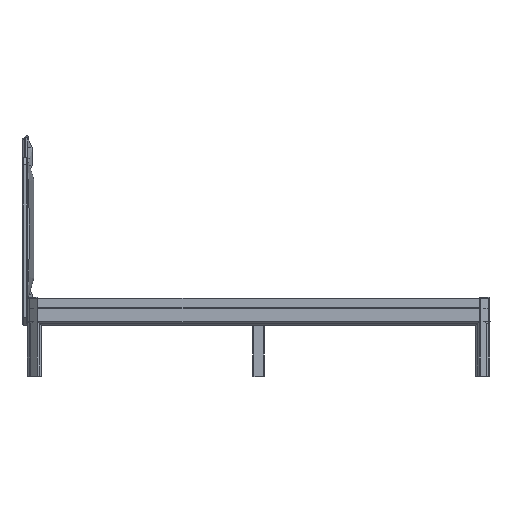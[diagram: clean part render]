
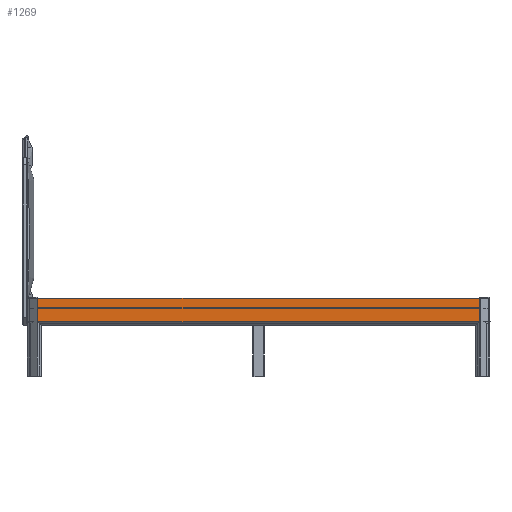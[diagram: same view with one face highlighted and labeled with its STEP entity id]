
A CAD part, left-side view. The second image highlights one B-rep face of the part: STEP entity #1269.
In plain terms, the highlighted planar face has unit normal (-1, 0, 0).
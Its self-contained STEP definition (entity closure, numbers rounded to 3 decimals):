
#1269=ADVANCED_FACE('',(#2975),#25318,.T.);
#2975=FACE_OUTER_BOUND('',#4689,.T.);
#4689=EDGE_LOOP('',(#8047,#8048,#8049,#8050,#8051,#8052));
#8047=ORIENTED_EDGE('',*,*,#15329,.T.);
#8048=ORIENTED_EDGE('',*,*,#15321,.F.);
#8049=ORIENTED_EDGE('',*,*,#15303,.F.);
#8050=ORIENTED_EDGE('',*,*,#15310,.F.);
#8051=ORIENTED_EDGE('',*,*,#15322,.F.);
#8052=ORIENTED_EDGE('',*,*,#15338,.T.);
#15303=EDGE_CURVE('',#23219,#23220,#21203,.T.);
#15310=EDGE_CURVE('',#23228,#23219,#21210,.T.);
#15321=EDGE_CURVE('',#23220,#23233,#19026,.T.);
#15322=EDGE_CURVE('',#23236,#23228,#21214,.T.);
#15329=EDGE_CURVE('',#23241,#23233,#21219,.T.);
#15338=EDGE_CURVE('',#23236,#23241,#21226,.T.);
#19026=(
BOUNDED_CURVE()
B_SPLINE_CURVE(1,(#46661,#46662),.UNSPECIFIED.,.F.,.F.)
B_SPLINE_CURVE_WITH_KNOTS((2,2),(0.,1918.4),.UNSPECIFIED.)
CURVE()
GEOMETRIC_REPRESENTATION_ITEM()
RATIONAL_B_SPLINE_CURVE((1.,1.))
REPRESENTATION_ITEM('')
);
#21203=B_SPLINE_CURVE_WITH_KNOTS('',1,(#46589,#46590),.UNSPECIFIED.,.F.,
 .F.,(2,2),(0.,100.963),.UNSPECIFIED.);
#21210=B_SPLINE_CURVE_WITH_KNOTS('',1,(#46631,#46632),.UNSPECIFIED.,.F.,
 .F.,(2,2),(0.,0.017),.UNSPECIFIED.);
#21214=B_SPLINE_CURVE_WITH_KNOTS('',1,(#46663,#46664),.UNSPECIFIED.,.F.,
 .F.,(2,2),(0.,1918.376),.UNSPECIFIED.);
#21219=B_SPLINE_CURVE_WITH_KNOTS('',1,(#46677,#46678),.UNSPECIFIED.,.F.,
 .F.,(2,2),(0.,100.963),.UNSPECIFIED.);
#21226=B_SPLINE_CURVE_WITH_KNOTS('',1,(#46711,#46712),.UNSPECIFIED.,.F.,
 .F.,(2,2),(-0.017,0.),.UNSPECIFIED.);
#23219=VERTEX_POINT('',#46562);
#23220=VERTEX_POINT('',#46563);
#23228=VERTEX_POINT('',#46571);
#23233=VERTEX_POINT('',#46576);
#23236=VERTEX_POINT('',#46579);
#23241=VERTEX_POINT('',#46584);
#25318=PLANE('',#26583);
#26583=AXIS2_PLACEMENT_3D('',#46554,#27967,$);
#27967=DIRECTION('',(-1.,0.,0.));
#46554=CARTESIAN_POINT('',(-4105.5,1154.552,227.32));
#46562=CARTESIAN_POINT('',(-4105.5,962.7,237.441));
#46563=CARTESIAN_POINT('',(-4105.5,962.7,338.404));
#46571=CARTESIAN_POINT('',(-4105.5,962.688,237.429));
#46576=CARTESIAN_POINT('',(-4105.5,-955.7,338.404));
#46579=CARTESIAN_POINT('',(-4105.5,-955.688,237.429));
#46584=CARTESIAN_POINT('',(-4105.5,-955.7,237.441));
#46589=CARTESIAN_POINT('',(-4105.5,962.7,237.441));
#46590=CARTESIAN_POINT('',(-4105.5,962.7,338.404));
#46631=CARTESIAN_POINT('',(-4105.5,962.688,237.429));
#46632=CARTESIAN_POINT('',(-4105.5,962.7,237.441));
#46661=CARTESIAN_POINT('',(-4105.5,962.7,338.404));
#46662=CARTESIAN_POINT('',(-4105.5,-955.7,338.404));
#46663=CARTESIAN_POINT('',(-4105.5,-955.688,237.429));
#46664=CARTESIAN_POINT('',(-4105.5,962.688,237.429));
#46677=CARTESIAN_POINT('',(-4105.5,-955.7,237.441));
#46678=CARTESIAN_POINT('',(-4105.5,-955.7,338.404));
#46711=CARTESIAN_POINT('',(-4105.5,-955.688,237.429));
#46712=CARTESIAN_POINT('',(-4105.5,-955.7,237.441));
